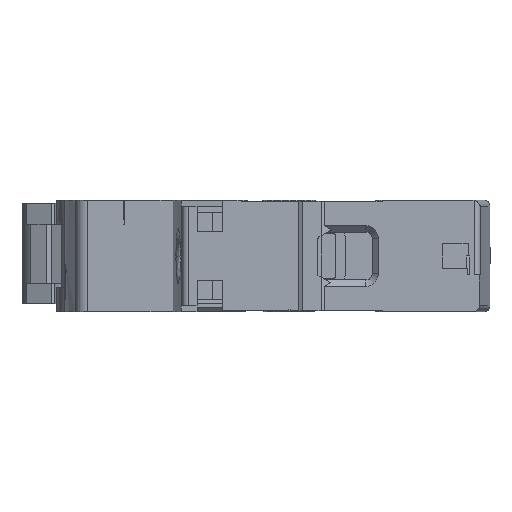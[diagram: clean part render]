
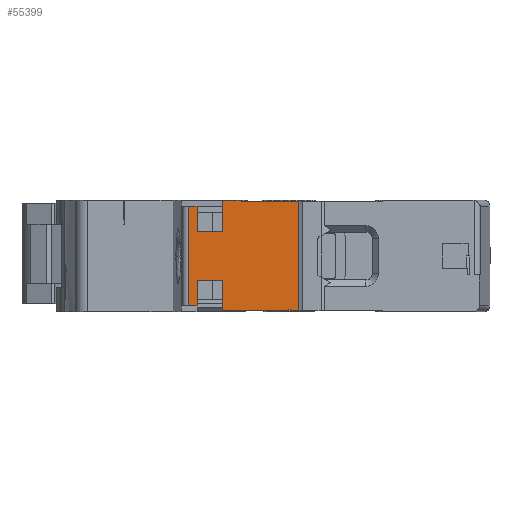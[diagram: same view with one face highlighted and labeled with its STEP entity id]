
A CAD part, left-side view. The second image highlights one B-rep face of the part: STEP entity #55399.
In plain terms, the highlighted planar face has unit normal (-1, 0, 0).
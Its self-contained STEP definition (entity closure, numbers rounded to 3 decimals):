
#687=DIRECTION('',(0.,1.,0.));
#688=VECTOR('',#687,1.975);
#689=CARTESIAN_POINT('',(4.829,51.476,-0.01));
#690=LINE('',#689,#688);
#997=DIRECTION('',(0.,0.,-1.));
#998=VECTOR('',#997,0.2);
#999=CARTESIAN_POINT('',(4.829,42.876,-17.36));
#1000=LINE('',#999,#998);
#1001=DIRECTION('',(0.,0.,-1.));
#1002=VECTOR('',#1001,4.05);
#1003=CARTESIAN_POINT('',(4.829,57.476,-12.71));
#1004=LINE('',#1003,#1002);
#1005=DIRECTION('',(0.,1.,0.));
#1006=VECTOR('',#1005,1.396);
#1007=CARTESIAN_POINT('',(4.829,57.476,-16.76));
#1008=LINE('',#1007,#1006);
#1009=DIRECTION('',(0.,0.,1.));
#1010=VECTOR('',#1009,15.8);
#1011=CARTESIAN_POINT('',(4.829,58.872,-16.76));
#1012=LINE('',#1011,#1010);
#1013=DIRECTION('',(0.,-1.,0.));
#1014=VECTOR('',#1013,4.025);
#1015=CARTESIAN_POINT('',(4.829,57.476,-5.01));
#1016=LINE('',#1015,#1014);
#1017=DIRECTION('',(0.,0.,1.));
#1018=VECTOR('',#1017,5.);
#1019=CARTESIAN_POINT('',(4.829,53.451,-5.01));
#1020=LINE('',#1019,#1018);
#1021=CARTESIAN_POINT('',(4.829,51.476,
-0.01));
#1022=CARTESIAN_POINT('',(4.829,51.433,
-0.01));
#1023=CARTESIAN_POINT('',(4.829,51.347,
-0.012));
#1024=CARTESIAN_POINT('',(4.829,51.22,
-0.019));
#1025=CARTESIAN_POINT('',(4.829,51.092,
-0.031));
#1026=CARTESIAN_POINT('',(4.829,50.965,
-0.048));
#1027=CARTESIAN_POINT('',(4.829,50.837,
-0.069));
#1028=CARTESIAN_POINT('',(4.829,50.708,
-0.095));
#1029=CARTESIAN_POINT('',(4.829,50.577,
-0.125));
#1030=CARTESIAN_POINT('',(4.829,50.489,
-0.148));
#1031=CARTESIAN_POINT('',(4.829,50.444,
-0.16));
#1033=DIRECTION('',(0.,-1.,0.));
#1034=VECTOR('',#1033,9.149);
#1035=CARTESIAN_POINT('',(4.829,50.444,
-0.16));
#1036=LINE('',#1035,#1034);
#1037=DIRECTION('',(0.,0.,1.));
#1038=VECTOR('',#1037,17.4);
#1039=CARTESIAN_POINT('',(4.829,41.295,-17.56));
#1040=LINE('',#1039,#1038);
#1443=DIRECTION('',(0.,0.,-1.));
#1444=VECTOR('',#1443,4.85);
#1445=CARTESIAN_POINT('',(4.829,53.476,-12.71));
#1446=LINE('',#1445,#1444);
#1586=DIRECTION('',(0.,0.,1.));
#1587=VECTOR('',#1586,4.05);
#1588=CARTESIAN_POINT('',(4.829,57.476,-5.01));
#1589=LINE('',#1588,#1587);
#6738=DIRECTION('',(0.,-1.,0.));
#6739=VECTOR('',#6738,1.39);
#6740=CARTESIAN_POINT('',(4.829,42.686,-17.56));
#6741=LINE('',#6740,#6739);
#6998=DIRECTION('',(0.,-1.,0.));
#6999=VECTOR('',#6998,8.6);
#7000=CARTESIAN_POINT('',(4.829,51.476,-17.56));
#7001=LINE('',#7000,#6999);
#8804=DIRECTION('',(0.,-1.,0.));
#8805=VECTOR('',#8804,0.19);
#8806=CARTESIAN_POINT('',(4.829,42.876,-17.36));
#8807=LINE('',#8806,#8805);
#8972=DIRECTION('',(0.,0.,-1.));
#8973=VECTOR('',#8972,0.2);
#8974=CARTESIAN_POINT('',(4.829,42.686,-17.36));
#8975=LINE('',#8974,#8973);
#26725=DIRECTION('',(0.,-1.,0.));
#26726=VECTOR('',#26725,2.);
#26727=CARTESIAN_POINT('',(4.829,53.476,
-17.56));
#26728=LINE('',#26727,#26726);
#39832=DIRECTION('',(0.,1.,0.));
#39833=VECTOR('',#39832,1.396);
#39834=CARTESIAN_POINT('',(4.829,57.476,
-0.96));
#39835=LINE('',#39834,#39833);
#39880=DIRECTION('',(0.,-1.,0.));
#39881=VECTOR('',#39880,4.);
#39882=CARTESIAN_POINT('',(4.829,57.476,
-12.71));
#39883=LINE('',#39882,#39881);
#43734=CARTESIAN_POINT('',(4.83,50.444,
-0.16));
#43736=VERTEX_POINT('',#43734);
#43786=CARTESIAN_POINT('',(4.829,41.295,
-0.16));
#43787=VERTEX_POINT('',#43786);
#45129=CARTESIAN_POINT('',(4.829,51.476,
-0.01));
#45131=VERTEX_POINT('',#45129);
#45150=CARTESIAN_POINT('',(4.829,53.451,
-0.01));
#45151=VERTEX_POINT('',#45150);
#46556=CARTESIAN_POINT('',(4.829,58.872,
-0.96));
#46557=VERTEX_POINT('',#46556);
#46566=CARTESIAN_POINT('',(4.829,57.476,
-0.96));
#46567=VERTEX_POINT('',#46566);
#46584=CARTESIAN_POINT('',(4.829,57.476,
-5.01));
#46585=CARTESIAN_POINT('',(4.829,53.451,
-5.01));
#46586=VERTEX_POINT('',#46584);
#46587=VERTEX_POINT('',#46585);
#48190=CARTESIAN_POINT('',(4.829,42.686,
-17.56));
#48191=VERTEX_POINT('',#48190);
#48192=CARTESIAN_POINT('',(4.829,41.295,
-17.56));
#48193=VERTEX_POINT('',#48192);
#48323=CARTESIAN_POINT('',(4.829,51.476,
-17.56));
#48324=VERTEX_POINT('',#48323);
#48325=CARTESIAN_POINT('',(4.829,42.876,
-17.56));
#48326=VERTEX_POINT('',#48325);
#50206=CARTESIAN_POINT('',(4.829,57.476,
-16.76));
#50207=VERTEX_POINT('',#50206);
#50208=CARTESIAN_POINT('',(4.829,57.476,
-12.71));
#50209=VERTEX_POINT('',#50208);
#50226=CARTESIAN_POINT('',(4.829,53.476,
-12.71));
#50228=VERTEX_POINT('',#50226);
#50230=CARTESIAN_POINT('',(4.829,53.476,
-17.56));
#50231=VERTEX_POINT('',#50230);
#51342=CARTESIAN_POINT('',(4.829,58.872,
-16.76));
#51343=VERTEX_POINT('',#51342);
#51344=CARTESIAN_POINT('',(4.829,42.686,
-17.36));
#51345=VERTEX_POINT('',#51344);
#51346=CARTESIAN_POINT('',(4.829,42.876,
-17.36));
#51347=VERTEX_POINT('',#51346);
#55356=CARTESIAN_POINT('',(4.829,59.772,
-1.66));
#55357=DIRECTION('',(-1.,0.,0.));
#55358=DIRECTION('',(0.,-1.,0.));
#55359=AXIS2_PLACEMENT_3D('',#55356,#55357,#55358);
#55360=PLANE('',#55359);
#55362=ORIENTED_EDGE('',*,*,#55361,.F.);
#55364=ORIENTED_EDGE('',*,*,#55363,.F.);
#55366=ORIENTED_EDGE('',*,*,#55365,.F.);
#55368=ORIENTED_EDGE('',*,*,#55367,.F.);
#55370=ORIENTED_EDGE('',*,*,#55369,.T.);
#55372=ORIENTED_EDGE('',*,*,#55371,.F.);
#55374=ORIENTED_EDGE('',*,*,#55373,.F.);
#55376=ORIENTED_EDGE('',*,*,#55375,.F.);
#55378=ORIENTED_EDGE('',*,*,#55377,.F.);
#55380=ORIENTED_EDGE('',*,*,#55379,.T.);
#55382=ORIENTED_EDGE('',*,*,#55381,.T.);
#55383=ORIENTED_EDGE('',*,*,#55346,.T.);
#55385=ORIENTED_EDGE('',*,*,#55384,.F.);
#55387=ORIENTED_EDGE('',*,*,#55386,.F.);
#55389=ORIENTED_EDGE('',*,*,#55388,.T.);
#55391=ORIENTED_EDGE('',*,*,#55390,.T.);
#55392=ORIENTED_EDGE('',*,*,#55090,.F.);
#55394=ORIENTED_EDGE('',*,*,#55393,.T.);
#55396=ORIENTED_EDGE('',*,*,#55395,.T.);
#55397=EDGE_LOOP('',(#55362,#55364,#55366,#55368,#55370,#55372,#55374,#55376,
#55378,#55380,#55382,#55383,#55385,#55387,#55389,#55391,#55392,#55394,#55396));
#55398=FACE_OUTER_BOUND('',#55397,.F.);
#55399=ADVANCED_FACE('',(#55398),#55360,.T.);
#1032=B_SPLINE_CURVE_WITH_KNOTS('',3,(#1021,#1022,#1023,#1024,#1025,#1026,#1027,
#1028,#1029,#1030,#1031),.UNSPECIFIED.,.F.,.F.,(4,1,1,1,1,1,1,1,4),(0.,
0.125,0.25,0.375,0.5,0.625,0.75,0.875,1.),.UNSPECIFIED.);
#55090=EDGE_CURVE('',#45131,#45151,#690,.T.);
#55346=EDGE_CURVE('',#51343,#46557,#1012,.T.);
#55361=EDGE_CURVE('',#48193,#43787,#1040,.T.);
#55363=EDGE_CURVE('',#48191,#48193,#6741,.T.);
#55365=EDGE_CURVE('',#51345,#48191,#8975,.T.);
#55367=EDGE_CURVE('',#51347,#51345,#8807,.T.);
#55369=EDGE_CURVE('',#51347,#48326,#1000,.T.);
#55371=EDGE_CURVE('',#48324,#48326,#7001,.T.);
#55373=EDGE_CURVE('',#50231,#48324,#26728,.T.);
#55375=EDGE_CURVE('',#50228,#50231,#1446,.T.);
#55377=EDGE_CURVE('',#50209,#50228,#39883,.T.);
#55379=EDGE_CURVE('',#50209,#50207,#1004,.T.);
#55381=EDGE_CURVE('',#50207,#51343,#1008,.T.);
#55384=EDGE_CURVE('',#46567,#46557,#39835,.T.);
#55386=EDGE_CURVE('',#46586,#46567,#1589,.T.);
#55388=EDGE_CURVE('',#46586,#46587,#1016,.T.);
#55390=EDGE_CURVE('',#46587,#45151,#1020,.T.);
#55393=EDGE_CURVE('',#45131,#43736,#1032,.T.);
#55395=EDGE_CURVE('',#43736,#43787,#1036,.T.);
